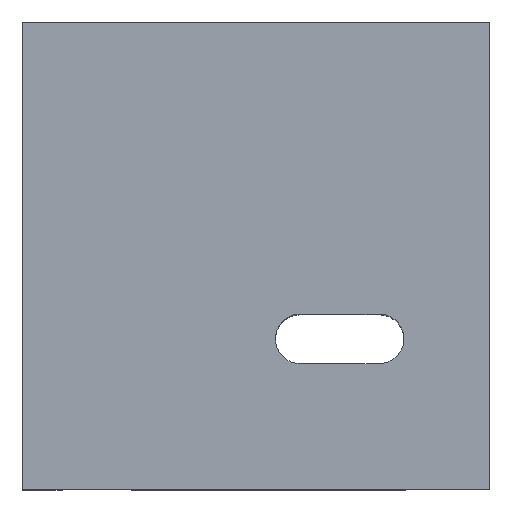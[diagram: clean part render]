
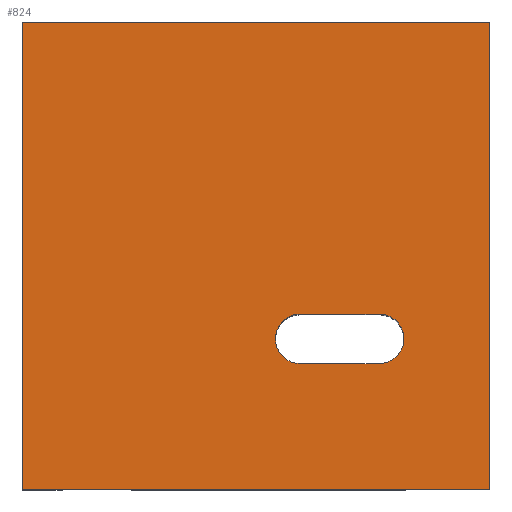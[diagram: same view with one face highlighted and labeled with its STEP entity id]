
A CAD part, top view. The second image highlights one B-rep face of the part: STEP entity #824.
In plain terms, the highlighted planar face has unit normal (0, 0, 1).
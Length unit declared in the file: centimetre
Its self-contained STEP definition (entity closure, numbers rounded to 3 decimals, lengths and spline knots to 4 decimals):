
#22 = EDGE_CURVE ( 'NONE', #515, #994, #601, .T. ) ;
#39 = ORIENTED_EDGE ( 'NONE', *, *, #383, .T. ) ;
#48 = EDGE_CURVE ( 'NONE', #1208, #644, #908, .T. ) ;
#67 = CIRCLE ( 'NONE', #169, 53.0658 ) ;
#93 = DIRECTION ( 'NONE',  ( 0., 1., 0. ) ) ;
#101 = CARTESIAN_POINT ( 'NONE',  ( 594.6094, 374.8612, 1000. ) ) ;
#103 = CARTESIAN_POINT ( 'NONE',  ( 0., 0., 1000. ) ) ;
#108 = CARTESIAN_POINT ( 'NONE',  ( 763.6231, 374.8612, 1000. ) ) ;
#111 = PLANE ( 'NONE',  #731 ) ;
#169 = AXIS2_PLACEMENT_3D ( 'NONE', #489, #1278, #1186 ) ;
#199 = VECTOR ( 'NONE', #345, 100. ) ;
#203 = CARTESIAN_POINT ( 'NONE',  ( 763.6231, 374.8612, 1000. ) ) ;
#217 = CARTESIAN_POINT ( 'NONE',  ( 0., 0., 1000. ) ) ;
#218 = ORIENTED_EDGE ( 'NONE', *, *, #1274, .F. ) ;
#231 = EDGE_CURVE ( 'NONE', #290, #1208, #1120, .T. ) ;
#262 = DIRECTION ( 'NONE',  ( -1., 0., 0. ) ) ;
#271 = LINE ( 'NONE', #670, #651 ) ;
#283 = CARTESIAN_POINT ( 'NONE',  ( 0., 1000., 1000. ) ) ;
#290 = VERTEX_POINT ( 'NONE', #325 ) ;
#321 = FACE_BOUND ( 'NONE', #558, .T. ) ;
#325 = CARTESIAN_POINT ( 'NONE',  ( 816.6889, 321.7955, 1000. ) ) ;
#343 = CARTESIAN_POINT ( 'NONE',  ( 1000., 0., 1000. ) ) ;
#345 = DIRECTION ( 'NONE',  ( 0., -1., 0. ) ) ;
#359 = LINE ( 'NONE', #1153, #199 ) ;
#383 = EDGE_CURVE ( 'NONE', #639, #1068, #560, .T. ) ;
#406 = CARTESIAN_POINT ( 'NONE',  ( 763.6231, 268.7297, 1000. ) ) ;
#425 = CARTESIAN_POINT ( 'NONE',  ( 763.6231, 321.7955, 1000. ) ) ;
#449 = DIRECTION ( 'NONE',  ( 0., 0., 1. ) ) ;
#461 = AXIS2_PLACEMENT_3D ( 'NONE', #641, #449, #845 ) ;
#468 = DIRECTION ( 'NONE',  ( 1., 0., 0. ) ) ;
#489 = CARTESIAN_POINT ( 'NONE',  ( 763.6231, 321.7955, 1000. ) ) ;
#497 = VECTOR ( 'NONE', #468, 100. ) ;
#514 = DIRECTION ( 'NONE',  ( 1., 0., 0. ) ) ;
#515 = VERTEX_POINT ( 'NONE', #610 ) ;
#525 = DIRECTION ( 'NONE',  ( 0., 0., 1. ) ) ;
#558 = EDGE_LOOP ( 'NONE', ( #1074, #827, #1164, #979, #218 ) ) ;
#560 = LINE ( 'NONE', #767, #959 ) ;
#569 = CARTESIAN_POINT ( 'NONE',  ( 594.6094, 268.7297, 1000. ) ) ;
#582 = ORIENTED_EDGE ( 'NONE', *, *, #1236, .T. ) ;
#601 = LINE ( 'NONE', #103, #885 ) ;
#602 = EDGE_CURVE ( 'NONE', #1149, #290, #67, .T. ) ;
#610 = CARTESIAN_POINT ( 'NONE',  ( 0., 0., 1000. ) ) ;
#620 = VERTEX_POINT ( 'NONE', #787 ) ;
#639 = VERTEX_POINT ( 'NONE', #793 ) ;
#641 = CARTESIAN_POINT ( 'NONE',  ( 594.6094, 321.7955, 1000. ) ) ;
#644 = VERTEX_POINT ( 'NONE', #101 ) ;
#651 = VECTOR ( 'NONE', #93, 100. ) ;
#662 = EDGE_LOOP ( 'NONE', ( #582, #1085, #852, #39 ) ) ;
#670 = CARTESIAN_POINT ( 'NONE',  ( 1000., 1000., 1000. ) ) ;
#715 = DIRECTION ( 'NONE',  ( 0., 0., 1. ) ) ;
#731 = AXIS2_PLACEMENT_3D ( 'NONE', #217, #715, #514 ) ;
#767 = CARTESIAN_POINT ( 'NONE',  ( 0., 1000., 1000. ) ) ;
#787 = CARTESIAN_POINT ( 'NONE',  ( 594.6094, 268.7297, 1000. ) ) ;
#793 = CARTESIAN_POINT ( 'NONE',  ( 1000., 1000., 1000. ) ) ;
#824 = ADVANCED_FACE ( 'NONE', ( #321, #1100 ), #111, .T. ) ;
#827 = ORIENTED_EDGE ( 'NONE', *, *, #48, .F. ) ;
#845 = DIRECTION ( 'NONE',  ( 1., 0., 0. ) ) ;
#852 = ORIENTED_EDGE ( 'NONE', *, *, #1046, .T. ) ;
#885 = VECTOR ( 'NONE', #1109, 100. ) ;
#886 = EDGE_CURVE ( 'NONE', #644, #620, #1244, .T. ) ;
#892 = AXIS2_PLACEMENT_3D ( 'NONE', #425, #525, #1108 ) ;
#908 = LINE ( 'NONE', #108, #1215 ) ;
#959 = VECTOR ( 'NONE', #262, 100. ) ;
#979 = ORIENTED_EDGE ( 'NONE', *, *, #602, .F. ) ;
#994 = VERTEX_POINT ( 'NONE', #343 ) ;
#1045 = LINE ( 'NONE', #569, #497 ) ;
#1046 = EDGE_CURVE ( 'NONE', #994, #639, #271, .T. ) ;
#1068 = VERTEX_POINT ( 'NONE', #283 ) ;
#1074 = ORIENTED_EDGE ( 'NONE', *, *, #886, .F. ) ;
#1085 = ORIENTED_EDGE ( 'NONE', *, *, #22, .T. ) ;
#1097 = DIRECTION ( 'NONE',  ( -1., 0., 0. ) ) ;
#1100 = FACE_OUTER_BOUND ( 'NONE', #662, .T. ) ;
#1108 = DIRECTION ( 'NONE',  ( 1., 0., 0. ) ) ;
#1109 = DIRECTION ( 'NONE',  ( 1., 0., 0. ) ) ;
#1120 = CIRCLE ( 'NONE', #892, 53.0658 ) ;
#1149 = VERTEX_POINT ( 'NONE', #406 ) ;
#1153 = CARTESIAN_POINT ( 'NONE',  ( 0., 1000., 1000. ) ) ;
#1164 = ORIENTED_EDGE ( 'NONE', *, *, #231, .F. ) ;
#1186 = DIRECTION ( 'NONE',  ( 1., 0., 0. ) ) ;
#1208 = VERTEX_POINT ( 'NONE', #203 ) ;
#1215 = VECTOR ( 'NONE', #1097, 100. ) ;
#1236 = EDGE_CURVE ( 'NONE', #1068, #515, #359, .T. ) ;
#1244 = CIRCLE ( 'NONE', #461, 53.0658 ) ;
#1274 = EDGE_CURVE ( 'NONE', #620, #1149, #1045, .T. ) ;
#1278 = DIRECTION ( 'NONE',  ( 0., 0., 1. ) ) ;
